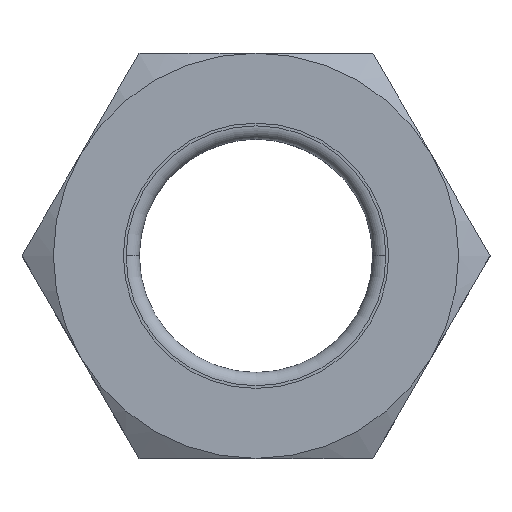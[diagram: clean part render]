
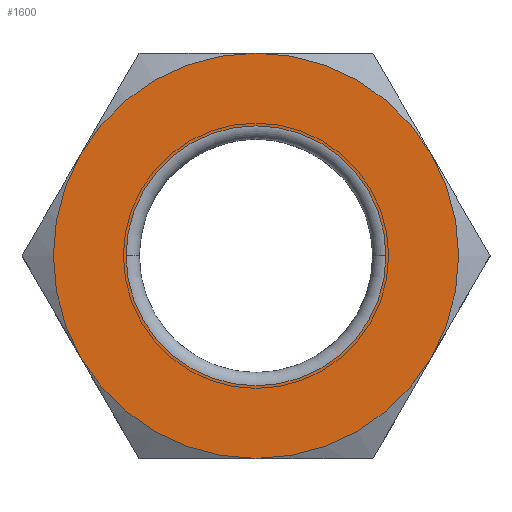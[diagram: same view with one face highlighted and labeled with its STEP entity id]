
A CAD part, top view. The second image highlights one B-rep face of the part: STEP entity #1600.
In plain terms, the highlighted planar face has unit normal (0, 0, 1).
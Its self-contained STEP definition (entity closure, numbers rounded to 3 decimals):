
#350=CARTESIAN_POINT('',(31.754,0.,43.7));
#351=DIRECTION('',(0.,0.,-1.));
#352=DIRECTION('',(0.866,0.5,0.));
#353=AXIS2_PLACEMENT_3D('',#350,#351,#352);
#355=CARTESIAN_POINT('',(31.754,0.,43.7));
#356=DIRECTION('',(0.,0.,-1.));
#357=DIRECTION('',(0.866,-0.5,0.));
#358=AXIS2_PLACEMENT_3D('',#355,#356,#357);
#360=CARTESIAN_POINT('',(31.754,0.,43.7));
#361=DIRECTION('',(0.,0.,-1.));
#362=DIRECTION('',(0.,-1.,0.));
#363=AXIS2_PLACEMENT_3D('',#360,#361,#362);
#365=CARTESIAN_POINT('',(31.754,0.,43.7));
#366=DIRECTION('',(0.,0.,-1.));
#367=DIRECTION('',(-0.866,-0.5,0.));
#368=AXIS2_PLACEMENT_3D('',#365,#366,#367);
#370=CARTESIAN_POINT('',(31.754,0.,43.7));
#371=DIRECTION('',(0.,0.,-1.));
#372=DIRECTION('',(-0.866,0.5,0.));
#373=AXIS2_PLACEMENT_3D('',#370,#371,#372);
#375=CARTESIAN_POINT('',(31.754,0.,43.7));
#376=DIRECTION('',(0.,0.,-1.));
#377=DIRECTION('',(0.,1.,0.));
#378=AXIS2_PLACEMENT_3D('',#375,#376,#377);
#380=CARTESIAN_POINT('',(31.754,0.,43.7));
#381=DIRECTION('',(0.,0.,-1.));
#382=DIRECTION('',(1.,0.,0.));
#383=AXIS2_PLACEMENT_3D('',#380,#381,#382);
#400=CARTESIAN_POINT('',(31.754,0.,43.7));
#401=DIRECTION('',(0.,0.,-1.));
#402=DIRECTION('',(-1.,0.,0.));
#403=AXIS2_PLACEMENT_3D('',#400,#401,#402);
#1031=CARTESIAN_POINT('',(14.119,0.,43.7));
#1032=CARTESIAN_POINT('',(49.389,0.,43.7));
#1033=VERTEX_POINT('',#1031);
#1034=VERTEX_POINT('',#1032);
#1039=CARTESIAN_POINT('',(55.57,13.75,43.7));
#1040=CARTESIAN_POINT('',(55.57,-13.75,43.7));
#1041=VERTEX_POINT('',#1039);
#1042=VERTEX_POINT('',#1040);
#1043=CARTESIAN_POINT('',(31.754,-27.5,43.7));
#1044=VERTEX_POINT('',#1043);
#1045=CARTESIAN_POINT('',(7.939,-13.75,43.7));
#1046=CARTESIAN_POINT('',(7.939,13.75,43.7));
#1047=VERTEX_POINT('',#1045);
#1048=VERTEX_POINT('',#1046);
#1049=CARTESIAN_POINT('',(31.754,27.5,43.7));
#1050=VERTEX_POINT('',#1049);
#1578=CARTESIAN_POINT('',(0.,0.,43.7));
#1579=DIRECTION('',(0.,0.,1.));
#1580=DIRECTION('',(1.,0.,0.));
#1581=AXIS2_PLACEMENT_3D('',#1578,#1579,#1580);
#1582=PLANE('',#1581);
#1583=ORIENTED_EDGE('',*,*,#1549,.T.);
#1584=ORIENTED_EDGE('',*,*,#1561,.T.);
#1585=ORIENTED_EDGE('',*,*,#1572,.T.);
#1587=ORIENTED_EDGE('',*,*,#1586,.T.);
#1589=ORIENTED_EDGE('',*,*,#1588,.T.);
#1591=ORIENTED_EDGE('',*,*,#1590,.T.);
#1592=EDGE_LOOP('',(#1583,#1584,#1585,#1587,#1589,#1591));
#1593=FACE_OUTER_BOUND('',#1592,.F.);
#1595=ORIENTED_EDGE('',*,*,#1594,.F.);
#1597=ORIENTED_EDGE('',*,*,#1596,.F.);
#1598=EDGE_LOOP('',(#1595,#1597));
#1599=FACE_BOUND('',#1598,.F.);
#354=CIRCLE('',#353,27.5);
#359=CIRCLE('',#358,27.5);
#364=CIRCLE('',#363,27.5);
#369=CIRCLE('',#368,27.5);
#374=CIRCLE('',#373,27.5);
#379=CIRCLE('',#378,27.5);
#384=CIRCLE('',#383,17.635);
#404=CIRCLE('',#403,17.635);
#1549=EDGE_CURVE('',#1041,#1042,#354,.T.);
#1561=EDGE_CURVE('',#1042,#1044,#359,.T.);
#1572=EDGE_CURVE('',#1044,#1047,#364,.T.);
#1586=EDGE_CURVE('',#1047,#1048,#369,.T.);
#1588=EDGE_CURVE('',#1048,#1050,#374,.T.);
#1590=EDGE_CURVE('',#1050,#1041,#379,.T.);
#1594=EDGE_CURVE('',#1034,#1033,#384,.T.);
#1596=EDGE_CURVE('',#1033,#1034,#404,.T.);
#1600=ADVANCED_FACE('',(#1593,#1599),#1582,.T.);
